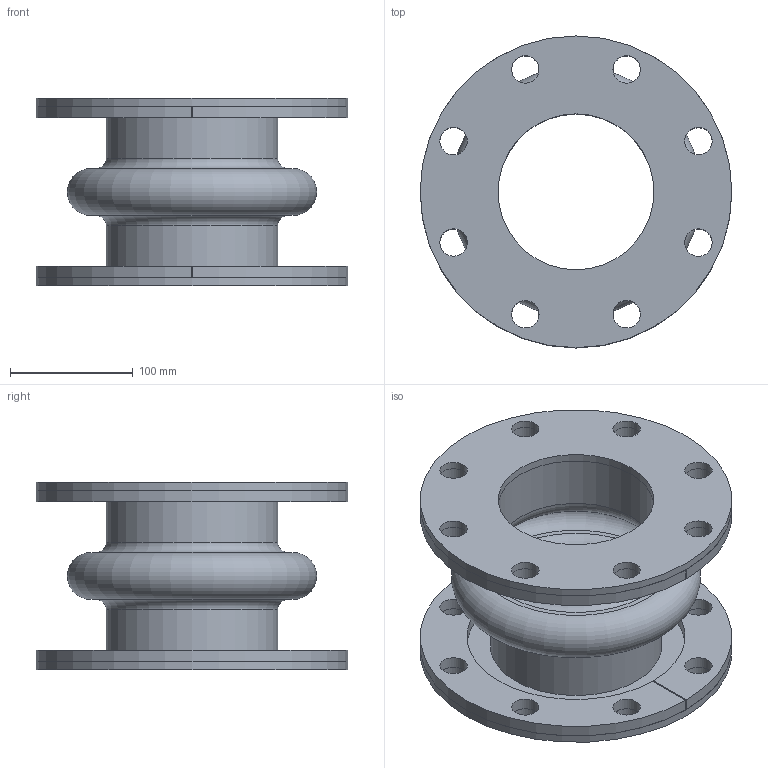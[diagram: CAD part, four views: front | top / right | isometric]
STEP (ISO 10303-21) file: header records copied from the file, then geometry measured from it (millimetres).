
FILE_DESCRIPTION(/* description */ (''),/* implementation_level */ '2;1');
FILE_NAME(/* name */ '5x6.stp',/* time_stamp */ '2026-07-21T16:00:54-05:00',/* author */ ('linda'),/* organization */ (''),/* preprocessor_version */ 'ST-DEVELOPER v20.1',/* originating_system */ 'Autodesk Inventor 2026',/* authorisation */ '');
FILE_SCHEMA (('AUTOMOTIVE_DESIGN { 1 0 10303 214 3 1 1 }'));
Length unit declared in the file: inch
Products named in the file (1): Part16
Bounding box: 254 x 254 x 152.4 mm (x, y, z)
Volume: 1414349.3 mm3; surface area: 456581.2 mm2
Topology: 5 solids, 5 shells, 78 faces, 186 edges, 124 vertices
Faces by surface type: cylinder 48, plane 24, torus 6
Full cylindrical faces by diameter (mm): 22.352 x32, 127 x4, 139.7 x2, 254 x2
Entity records: 2593 total; most frequent: DIRECTION 458, CARTESIAN_POINT 389, ORIENTED_EDGE 372, AXIS2_PLACEMENT_3D 193, EDGE_CURVE 186, EDGE_LOOP 150, VERTEX_POINT 124, CIRCLE 114
